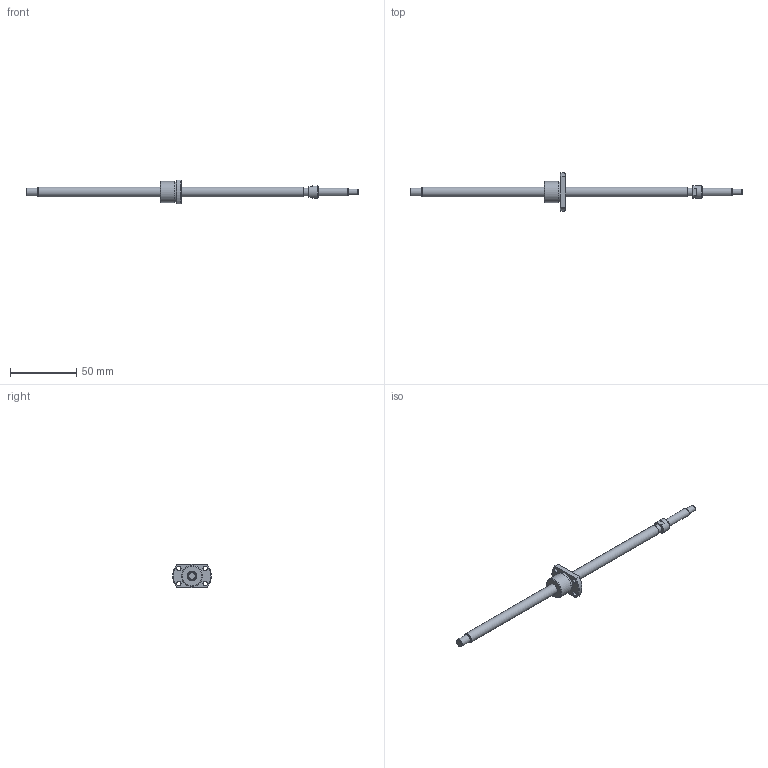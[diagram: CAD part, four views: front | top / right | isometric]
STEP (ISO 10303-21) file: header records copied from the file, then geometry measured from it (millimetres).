
FILE_DESCRIPTION(/* description */ ('STEP AP214'),/* implementation_level */ '2;1');
FILE_NAME(/* name */ 'SG0802.5-200R250C5C0X(92)',/* time_stamp */ '2026-07-21T16:48:16+02:00',/* author */ ('License CC BY-ND 4.0'),/* organization */ ('CADENAS'),/* preprocessor_version */ 'ST-DEVELOPER v20',/* originating_system */ 'PARTsolutions',/* authorisation */ ' ');
FILE_SCHEMA (('AUTOMOTIVE_DESIGN {1 0 10303 214 3 1 1}'));
Length unit declared in the file: millimetre
Products named in the file (3): SG0802.5-200R250C5C0X(92); SG0802.5-200R250C5C_shaft; SG0802.5 C5_nut
Assembly tree (2 placements, depth 2):
  SG0802.5-200R250C5C0X(92)
    SG0802.5-200R250C5C_shaft
    SG0802.5 C5_nut
Bounding box: 250 x 29 x 18 mm (x, y, z)
Volume: 13842.7 mm3; surface area: 8128.2 mm2
Topology: 2 solids, 2 shells, 47 faces, 98 edges, 63 vertices
Faces by surface type: plane 19, cylinder 17, cone 10, torus 1
Full cylindrical faces by diameter (mm): 3.4 x4, 4.5 x1, 6 x3, 7.5 x2, 9.5 x1, 15.7 x1, 16 x1
Entity records: 1258 total; most frequent: DIRECTION 217, CARTESIAN_POINT 213, ORIENTED_EDGE 154, AXIS2_PLACEMENT_3D 98, EDGE_LOOP 85, FACE_BOUND 85, EDGE_CURVE 77, VERTEX_POINT 62
